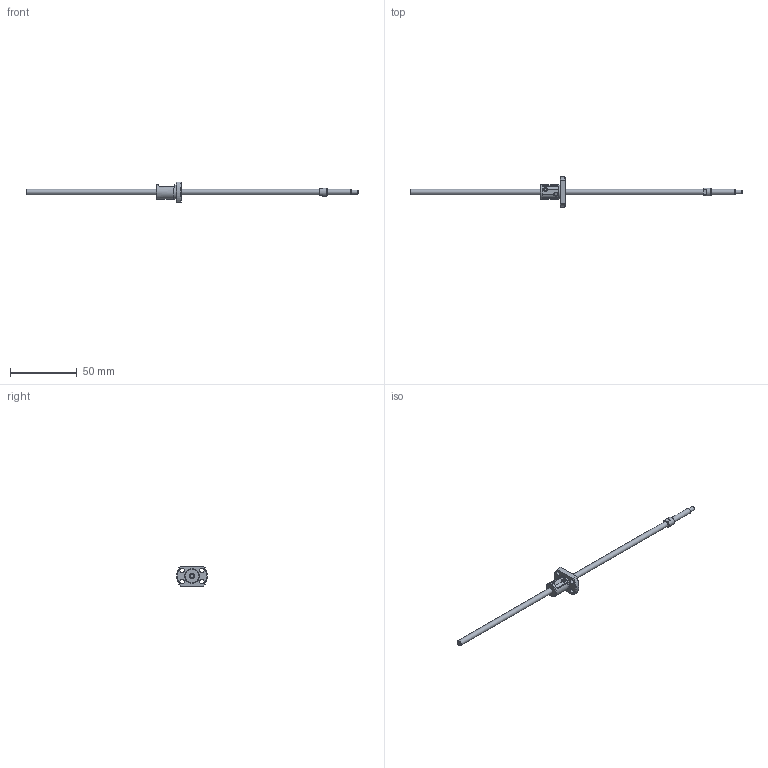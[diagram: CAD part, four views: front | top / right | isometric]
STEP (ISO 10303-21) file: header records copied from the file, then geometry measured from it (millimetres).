
FILE_DESCRIPTION(/* description */ ('STEP AP214'),/* implementation_level */ '2;1');
FILE_NAME(/* name */ 'SRT0402-216R249C7A0X(97.5Processing)',/* time_stamp */ '2026-08-04T17:50:38+02:00',/* author */ ('License CC BY-ND 4.0'),/* organization */ ('CADENAS'),/* preprocessor_version */ 'ST-DEVELOPER v20',/* originating_system */ 'PARTsolutions',/* authorisation */ ' ');
FILE_SCHEMA (('AUTOMOTIVE_DESIGN {1 0 10303 214 3 1 1}'));
Length unit declared in the file: millimetre
Products named in the file (3): SRT0402-216R249C7A0X(97.5Processing); SRT0402-216R275ACt7Processing6Shaft; SRT0402Nut
Assembly tree (2 placements, depth 2):
  SRT0402-216R249C7A0X(97.5Processing)
    SRT0402-216R275ACt7Processing6Shaft
    SRT0402Nut
Bounding box: 249 x 22.93 x 15 mm (x, y, z)
Volume: 5347.5 mm3; surface area: 4940.1 mm2
Topology: 2 solids, 2 shells, 61 faces, 155 edges, 102 vertices
Faces by surface type: plane 30, cylinder 17, cone 13, torus 1
Full cylindrical faces by diameter (mm): 1 x2, 3 x1, 3.4 x4, 4 x3, 6 x1, 10.6 x1, 11 x1
Entity records: 1751 total; most frequent: CARTESIAN_POINT 334, DIRECTION 288, ORIENTED_EDGE 238, AXIS2_PLACEMENT_3D 123, EDGE_CURVE 119, FACE_BOUND 100, EDGE_LOOP 98, VERTEX_POINT 91
